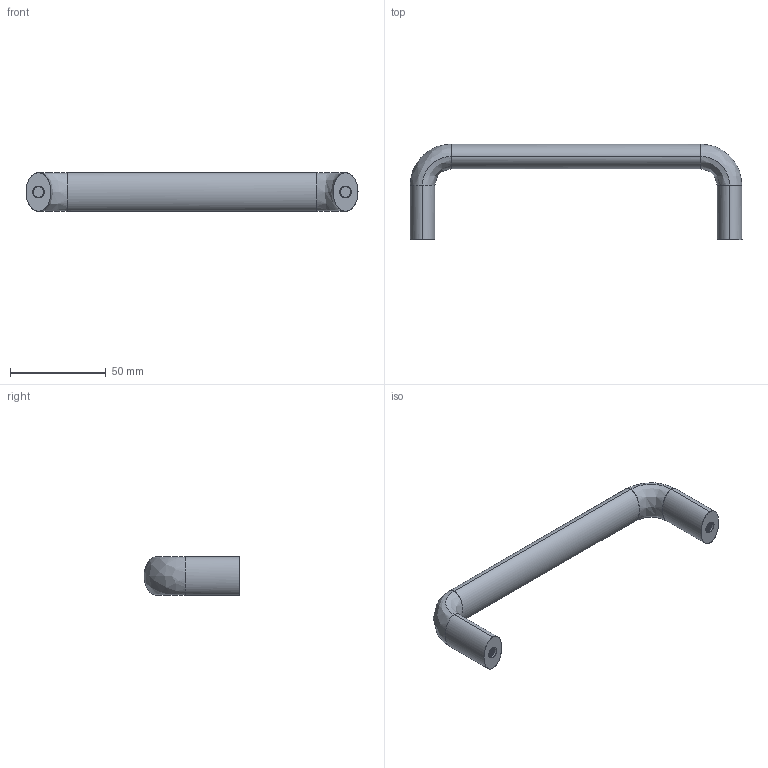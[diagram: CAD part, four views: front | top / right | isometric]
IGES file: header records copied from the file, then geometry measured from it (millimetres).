
Start section: SolidWorks IGES file using analytic representation for surfaces
Global section: file name: C:\Documents and Settings\Deathkiller\桌面\3D IGES\U型把手\MS-740\20\p=160.IGS; native system: SolidWorks 2006 by SolidWorks Corporation; preprocessor: SolidWorks 2006 by SolidWorks Corporation; author: Deathkiller; date: 080624.172204; units: millimetre
Bounding box: 173 x 50 x 20 mm (x, y, z)
Surface area: 13125.7 mm2 (no closed solid volume)
Topology: 0 solids, 0 shells, 62 faces, 1392 edges, 1392 vertices
Faces by surface type: revolution 40, bspline 22
